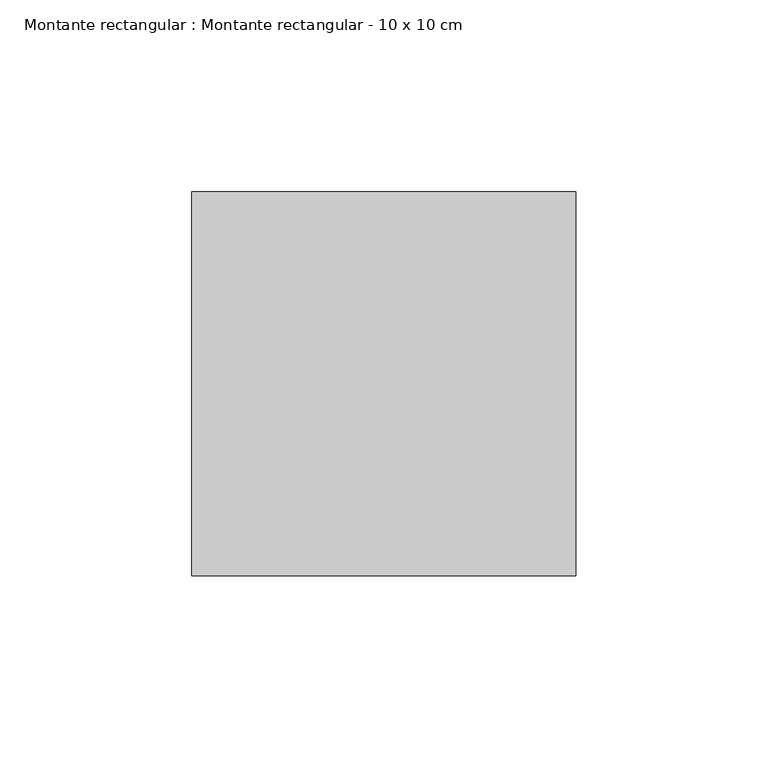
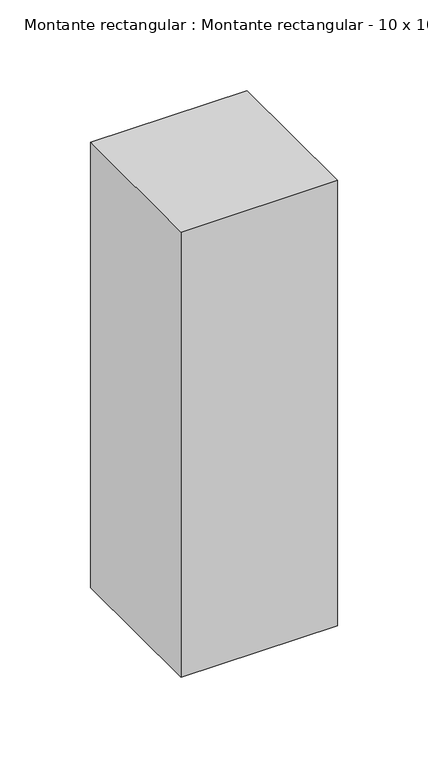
"""IFC4 building model written with IfcOpenShell, lengths in millimetres: member geometry, Montante rectangular : Montante rectangular - 10 x 10 cm."""

from ifc_helpers import new_model, si_unit, frame, origin, place, context, project, spatial, polyline, outline, extrude, source, transform, mapped, element, save


def montante_rectangular_montante_rectangular_10_x_10_cm_019deabb(model_context):
    return source(origin(), model_context, "Body", "SweptSolid", [
        extrude(outline(polyline([(0.0, -50.0), (-100.0, -50.0), (-100.0, 50.0), (0.0, 50.0), (0.0, -50.0)])), frame((0.0, 0.0, -300.0), z_axis=(0.0, 0.0, 1.0), x_axis=(1.0, 0.0, 0.0)), (0.0, 0.0, 1.0), 300.0),
    ])


if __name__ == "__main__":
    model = new_model("IFC4")
    model_context = context("Model", 3, world=origin())
    ifc_project = project(units=[si_unit("LENGTHUNIT", "METRE", prefix="MILLI")], contexts=[model_context])
    site = spatial("IfcSite", under=ifc_project)
    building = spatial("IfcBuilding", under=site)
    placement = place(None, origin())
    montante_rectangular_montante_rectangular_10_x_10_cm_shape = montante_rectangular_montante_rectangular_10_x_10_cm_019deabb(model_context)
    element("IfcMember", 1, ObjectType="Montante rectangular : Montante rectangular - 10 x 10 cm", at=placement, inside=building, context=model_context, shape_type="MappedRepresentation", body=[
        mapped(montante_rectangular_montante_rectangular_10_x_10_cm_shape, transform((0.0, 0.0, 0.0), x_axis=(1.0, 0.0, 0.0), y_axis=(0.0, 1.0, 0.0), z_axis=(0.0, 0.0, 1.0))),
    ])
    save(model, "model.ifc")
